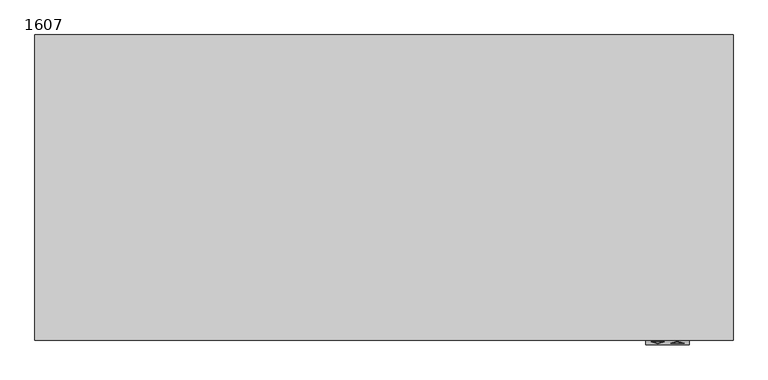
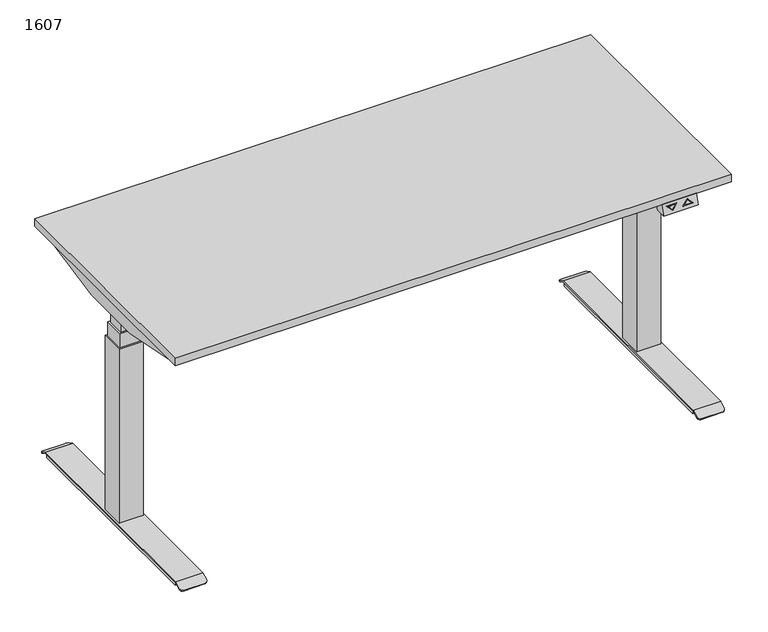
"""IFC4 building model written with IfcOpenShell, lengths in millimetres: furniture geometry, PINTA EQC : 1607."""

import ifcopenshell
import ifcopenshell.guid

model = None  # the IFC model being written
_history = None  # IfcOwnerHistory: only IFC2X3 demands one
_inside = {}  # id of a spatial element -> (the spatial element, [elements in it])
_under = {}  # id of a project, library or spatial element -> (it, [spatial elements below it])
_declared = {}  # id of a project -> (the project, [libraries it declares])
_typed = {}  # id of a type object -> (the type object, [elements of that type])
_made_of = {}  # id of a material, layer set ... -> (it, [elements and type objects made of it])


def new_model(schema):
    """Start an empty IFC model of exactly this schema.

    Asked for "IFC4X3", IfcOpenShell would pick the latest addendum, in which some entities
    have other attributes; the version numbers below select the first issue.
    IFC2X3 requires an IfcOwnerHistory on every rooted entity: one is made here for all.
    """
    global model, _history
    if schema == "IFC4X3":
        model = ifcopenshell.file(schema_version=(4, 3, 0, 0))
    else:
        model = ifcopenshell.file(schema=schema)
    _inside.clear()
    _under.clear()
    _declared.clear()
    _typed.clear()
    _made_of.clear()
    _history = None
    if model.schema == "IFC2X3":
        org = make("IfcOrganization", Name="unknown")
        user = make(
            "IfcPersonAndOrganization",
            ThePerson=make("IfcPerson", FamilyName="unknown"),
            TheOrganization=org,
        )
        app = make(
            "IfcApplication",
            ApplicationDeveloper=org,
            Version="unknown",
            ApplicationFullName="unknown",
            ApplicationIdentifier="unknown",
        )
        _history = make(
            "IfcOwnerHistory",
            OwningUser=user,
            OwningApplication=app,
            ChangeAction="ADDED",
            CreationDate=0,
        )
    return model


def make(cls, **values):
    """One entity of the class cls with the attributes given. An attribute that is None is left unset."""
    return model.create_entity(
        cls, **{name: value for name, value in values.items() if value is not None}
    )


def rooted(cls, **values):
    """An entity with a GlobalId (a new one), such as an element, a storey or a relation."""
    return make(cls, GlobalId=ifcopenshell.guid.new(), OwnerHistory=_history, **values)


def si_unit(unit_type, name, prefix=None):
    """IfcSIUnit, for example si_unit("LENGTHUNIT", "METRE", prefix="MILLI")."""
    return make("IfcSIUnit", UnitType=unit_type, Prefix=prefix, Name=name)


def assignment(units):
    """IfcUnitAssignment: the units of a project."""
    return None if units is None else make("IfcUnitAssignment", Units=units)


def point(xyz):
    """IfcCartesianPoint."""
    return None if xyz is None else make("IfcCartesianPoint", Coordinates=xyz)


def direction(xyz):
    """IfcDirection."""
    return None if xyz is None else make("IfcDirection", DirectionRatios=xyz)


def frame(location, z_axis=None, x_axis=None):
    """IfcAxis2Placement3D, a coordinate frame: its origin and axes. An axis left out is left unset."""
    return make(
        "IfcAxis2Placement3D",
        Location=point(location),
        Axis=direction(z_axis),
        RefDirection=direction(x_axis),
    )


def frame_2d(location, x_axis=None):
    """IfcAxis2Placement2D, a coordinate frame in the plane: its origin and x axis."""
    return make(
        "IfcAxis2Placement2D", Location=point(location), RefDirection=direction(x_axis)
    )


def origin():
    """The frame at (0, 0, 0) with its axes left unset."""
    return frame((0.0, 0.0, 0.0))


def origin_with_axes():
    """The frame at (0, 0, 0) with the z axis (0, 0, 1) and the x axis (1, 0, 0) written out."""
    return frame((0.0, 0.0, 0.0), z_axis=(0.0, 0.0, 1.0), x_axis=(1.0, 0.0, 0.0))


def place(relative_to, where):
    """IfcLocalPlacement: puts the frame where relative to a parent placement (None: the world)."""
    return make(
        "IfcLocalPlacement", PlacementRelTo=relative_to, RelativePlacement=where
    )


def context(
    kind, dimensions, precision=None, world=None, true_north=None, identifier=None
):
    """IfcGeometricRepresentationContext, for example the 3D "Model" context."""
    return make(
        "IfcGeometricRepresentationContext",
        ContextIdentifier=identifier,
        ContextType=kind,
        CoordinateSpaceDimension=dimensions,
        Precision=precision,
        WorldCoordinateSystem=world,
        TrueNorth=true_north,
    )


def project(units=None, contexts=None):
    """IfcProject with its units and contexts."""
    return rooted(
        "IfcProject",
        Name="project",
        RepresentationContexts=contexts,
        UnitsInContext=assignment(units),
    )


def spatial(cls, under=None, at=None, **own):
    """A site, building, storey or space (cls), placed at a placement, below another one or the project."""
    s = rooted(cls, ObjectPlacement=at, **own)
    if under is not None:
        _under.setdefault(under.id(), (under, []))[1].append(s)
    return s


def polyline(points):
    """IfcPolyline through the points."""
    return make("IfcPolyline", Points=[point(p) for p in points])


def circle_curve(where, radius):
    """IfcCircle in the frame where."""
    return make("IfcCircle", Position=where, Radius=radius)


def trimmed(basis, trim1, trim2, sense, master):
    """IfcTrimmedCurve: the piece of a basis curve between two trims."""
    return make(
        "IfcTrimmedCurve",
        BasisCurve=basis,
        Trim1=trim1,
        Trim2=trim2,
        SenseAgreement=sense,
        MasterRepresentation=master,
    )


def segment(curve, same_sense, transition):
    """IfcCompositeCurveSegment."""
    return make(
        "IfcCompositeCurveSegment",
        Transition=transition,
        SameSense=same_sense,
        ParentCurve=curve,
    )


def composite_curve(segments, self_intersect=None):
    """IfcCompositeCurve: segments joined end to end."""
    return make("IfcCompositeCurve", Segments=segments, SelfIntersect=self_intersect)


def outline(outer, holes=None, kind="AREA"):
    """IfcArbitraryClosedProfileDef: a profile drawn as a closed curve; with holes, ...WithVoids."""
    if holes is None:
        return make("IfcArbitraryClosedProfileDef", ProfileType=kind, OuterCurve=outer)
    return make(
        "IfcArbitraryProfileDefWithVoids",
        ProfileType=kind,
        OuterCurve=outer,
        InnerCurves=holes,
    )


def extrude(swept, where, along, depth):
    """IfcExtrudedAreaSolid: the profile swept, set in the frame where, extruded along a direction by depth."""
    return make(
        "IfcExtrudedAreaSolid",
        SweptArea=swept,
        Position=where,
        ExtrudedDirection=direction(along),
        Depth=depth,
    )


def faces_of(points, faces, orient=None, outer=None):
    """IfcFace entities. A face is a list of loops; a loop is a list of indices into points, from 0.

    orient and outer hold one flag for each loop. By default every Orientation is true, the
    first loop of a face is its IfcFaceOuterBound and the others are IfcFaceBound.
    """
    made = []
    for i, loops in enumerate(faces):
        bounds = []
        for j, loop in enumerate(loops):
            is_outer = j == 0 if outer is None else outer[i][j]
            bounds.append(
                make(
                    "IfcFaceOuterBound" if is_outer else "IfcFaceBound",
                    Bound=make("IfcPolyLoop", Polygon=[points[k] for k in loop]),
                    Orientation=True if orient is None else orient[i][j],
                )
            )
        made.append(make("IfcFace", Bounds=bounds))
    return made


def faceted_brep(points, faces, orient=None, outer=None, voids=None):
    """IfcFacetedBrep: a solid bounded by flat faces; with voids (closed shells), ...WithVoids."""
    shared = [point(p) for p in points]
    hull = make("IfcClosedShell", CfsFaces=faces_of(shared, faces, orient, outer))
    if voids is None:
        return make("IfcFacetedBrep", Outer=hull)
    return make(
        "IfcFacetedBrepWithVoids",
        Outer=hull,
        Voids=[
            make(cls, CfsFaces=faces_of(shared, fs, o, b)) for cls, fs, o, b in voids
        ],
    )


def shape(context_of_items, identifier, shape_type, items):
    """IfcShapeRepresentation: the items that make up one representation, for example the "Body"."""
    return make(
        "IfcShapeRepresentation",
        ContextOfItems=context_of_items,
        RepresentationIdentifier=identifier,
        RepresentationType=shape_type,
        Items=items,
    )


def source(mapping_origin, context_of_items, identifier, shape_type, items):
    """IfcRepresentationMap: a shape defined once, which mapped items show again and again."""
    return make(
        "IfcRepresentationMap",
        MappingOrigin=mapping_origin,
        MappedRepresentation=shape(context_of_items, identifier, shape_type, items),
    )


def transform(
    local_origin,
    x_axis=None,
    y_axis=None,
    z_axis=None,
    scale=None,
    scale2=None,
    scale3=None,
    uniform=True,
):
    """IfcCartesianTransformationOperator3D, or its non-uniform kind. x_axis, y_axis, z_axis: its Axis1, 2, 3."""
    if uniform:
        return make(
            "IfcCartesianTransformationOperator3D",
            Axis1=direction(x_axis),
            Axis2=direction(y_axis),
            LocalOrigin=point(local_origin),
            Scale=scale,
            Axis3=direction(z_axis),
        )
    return make(
        "IfcCartesianTransformationOperator3DnonUniform",
        Axis1=direction(x_axis),
        Axis2=direction(y_axis),
        LocalOrigin=point(local_origin),
        Scale=scale,
        Axis3=direction(z_axis),
        Scale2=scale2,
        Scale3=scale3,
    )


def mapped(mapping_source, mapping_target):
    """IfcMappedItem: shows the shape of a source again, moved by a transform."""
    return make(
        "IfcMappedItem", MappingSource=mapping_source, MappingTarget=mapping_target
    )


def made_of(thing, what):
    """Note that an element or type object is made of a material, layer set ...; save() writes the relation."""
    if what is not None:
        _made_of.setdefault(what.id(), (what, []))[1].append(thing)
    return thing


def element(
    cls,
    number,
    at=None,
    inside=None,
    cuts=None,
    type_object=None,
    material=None,
    context=None,
    identifier="Body",
    shape_type=None,
    held_by="IfcProductDefinitionShape",
    body=None,
    shapes=None,
    **own,
):
    """One element of the class cls, such as IfcWall. Its Tag is "e" and its number.

    at: its placement. inside: the storey or other place that contains it. cuts: it is an
    opening in that element (IfcRelVoidsElement). A single representation is given by context,
    identifier, shape_type and body (its items); several are given by shapes. held_by: the class
    of the entity that holds the representations. save() writes the other relations.
    """
    e = rooted(cls, Tag="e%d" % number, ObjectPlacement=at, **own)
    if body is not None:
        shapes = [shape(context, identifier, shape_type, body)]
    if shapes is not None:
        e.Representation = make(held_by, Representations=shapes)
    if inside is not None:
        _inside.setdefault(inside.id(), (inside, []))[1].append(e)
    if cuts is not None:
        rooted(
            "IfcRelVoidsElement", RelatingBuildingElement=cuts, RelatedOpeningElement=e
        )
    if type_object is not None:
        _typed.setdefault(type_object.id(), (type_object, []))[1].append(e)
    return made_of(e, material)


def aggregate(whole, parts):
    """IfcRelAggregates: a whole, such as a stair, and the parts it consists of."""
    return rooted("IfcRelAggregates", RelatingObject=whole, RelatedObjects=parts)


def save(model, path):
    """Write the relations noted so far, then the file.

    IfcRelAggregates (storeys below a building ...), IfcRelContainedInSpatialStructure (elements
    in a storey), IfcRelDefinesByType, IfcRelAssociatesMaterial and IfcRelDeclares: one each for
    every whole, place, type object, material and project.
    """
    for whole, parts in _under.values():
        aggregate(whole, parts)
    for where, things in _inside.values():
        rooted(
            "IfcRelContainedInSpatialStructure",
            RelatedElements=things,
            RelatingStructure=where,
        )
    for kind, things in _typed.values():
        rooted("IfcRelDefinesByType", RelatedObjects=things, RelatingType=kind)
    for what, things in _made_of.values():
        rooted("IfcRelAssociatesMaterial", RelatedObjects=things, RelatingMaterial=what)
    for by, libraries in _declared.values():
        rooted("IfcRelDeclares", RelatingContext=by, RelatedDefinitions=libraries)
    model.write(path)


def plane_surface(at):
    """IfcPlane: the flat surface through the origin of the frame at, square to its z axis."""
    return make("IfcPlane", Position=at)


def cylinder_surface(at, radius):
    """IfcCylindricalSurface: all points at the distance radius from the z axis of the frame at."""
    return make("IfcCylindricalSurface", Position=at, Radius=radius)


def advanced_brep(points, edges, surfaces, faces):
    """IfcAdvancedBrep: a solid bounded by faces that lie on surfaces and meet in shared edges.

    An edge is (start, end): straight between two places in points (the first is 0);
    or (start, end, curve); or (start, end, curve, False) where it runs against its curve.
    A face is (place in surfaces, loops), or (place, loops, False) where it looks against
    its surface's normal. A loop lists edges by number (the first is 1), with a minus sign
    where the edge is run from its end to its start. The first loop is the outer one.
    """
    corners = [point(p) for p in points]
    vertices = [make("IfcVertexPoint", VertexGeometry=c) for c in corners]
    made = []
    for start, end, *more in edges:
        made.append(
            make(
                "IfcEdgeCurve",
                EdgeStart=vertices[start],
                EdgeEnd=vertices[end],
                EdgeGeometry=more[0] if more else make("IfcPolyline", Points=[corners[start], corners[end]]),
                SameSense=more[1] if len(more) > 1 else True,
            )
        )
    hull = []
    for where, loops, *sense in faces:
        bounds = []
        for j, loop in enumerate(loops):
            ring = [make("IfcOrientedEdge", EdgeElement=made[abs(k) - 1], Orientation=k > 0) for k in loop]
            bounds.append(
                make(
                    "IfcFaceOuterBound" if j == 0 else "IfcFaceBound",
                    Bound=make("IfcEdgeLoop", EdgeList=ring),
                    Orientation=True,
                )
            )
        hull.append(make("IfcAdvancedFace", Bounds=bounds, FaceSurface=surfaces[where], SameSense=sense[0] if sense else True))
    return make("IfcAdvancedBrep", Outer=make("IfcClosedShell", CfsFaces=hull))


def furniture_1607_15c2b72c(model_context):
    return source(origin(), model_context, "Body", "SolidModel", [
        faceted_brep([(600.0, -710.0, 668.0), (600.0, -680.0, 668.0), (700.0, -680.0, 668.0), (700.0, -710.0, 668.0), (600.0, -700.0, 698.0), (700.0, -700.0, 698.0), (700.0, -670.0, 698.0), (600.0, -670.0, 698.0), (612.5, -702.6491106, 690.0526681), (642.5, -702.6491106, 690.0526681), (627.5, -707.3925271, 675.8224186), (687.5, -706.9174824, 677.2475529), (657.5, -706.9174824, 677.2475529), (672.5, -702.1740659, 691.4778023), (627.5, -706.4980999, 678.5057002), (637.6715729, -703.2815662, 688.1553015), (617.3284271, -703.2815662, 688.1553015), (682.6715729, -706.2850268, 679.1449195), (672.5, -703.0684931, 688.7945208), (662.3284271, -706.2850268, 679.1449195), (642.5, -701.7004273, 689.7364403), (612.5, -701.7004273, 689.7364403), (627.5, -706.4438438, 675.5061908), (637.6715729, -702.3328829, 687.8390737), (627.5, -705.5494166, 678.1894724), (617.3284271, -702.3328829, 687.8390737), (657.5, -705.9687991, 676.9313251), (687.5, -705.9687991, 676.9313251), (672.5, -701.2253826, 691.1615746), (672.5, -702.1198098, 688.478293), (682.6715729, -705.3363436, 678.8286917), (662.3284271, -705.3363436, 678.8286917)], [[[0, 1, 2, 3]], [[4, 5, 6, 7]], [[1, 0, 4, 7]], [[3, 2, 6, 5]], [[0, 3, 5, 4], [8, 9, 10], [11, 12, 13]], [[14, 15, 16]], [[17, 18, 19]], [[2, 1, 7, 6]], [[20, 21, 22], [23, 24, 25]], [[26, 27, 28], [29, 30, 31]], [[21, 20, 9, 8]], [[22, 21, 8, 10]], [[20, 22, 10, 9]], [[27, 26, 12, 11]], [[28, 27, 11, 13]], [[26, 28, 13, 12]], [[24, 23, 15, 14]], [[25, 24, 14, 16]], [[23, 25, 16, 15]], [[30, 29, 18, 17]], [[31, 30, 17, 19]], [[29, 31, 19, 18]]]),
        extrude(outline(polyline([(-780.0, -269.7732113), (780.0, -269.7733158), (780.0, -289.7733158), (-780.0, -289.7732113), (-780.0, -269.7732113)])), frame((0.0, 0.0, 658.0), z_axis=(0.0, 0.0, 1.0), x_axis=(1.0, 0.0, 0.0)), (0.0, 0.0, 1.0), 40.0),
        extrude(outline(polyline([(-780.0, -409.7732114), (780.0, -409.7733158), (780.0, -429.7733158), (-780.0, -429.7732114), (-780.0, -409.7732114)])), frame((0.0, 0.0, 658.0), z_axis=(0.0, 0.0, 1.0), x_axis=(1.0, 0.0, 0.0)), (0.0, 0.0, 1.0), 40.0),
        extrude(outline(polyline([(-800.0, -700.0), (-800.0, 0.0), (800.0, 0.0), (800.0, -700.0), (-800.0, -700.0)])), frame((0.0, 0.0, 698.0), z_axis=(0.0, 0.0, 1.0), x_axis=(1.0, 0.0, 0.0)), (0.0, 0.0, 1.0), 22.0),
        advanced_brep(
        [(706.9772339, -670.0, 6.0), (706.9772339, -670.0, 16.0), (706.9772339, -30.0, 16.0), (706.9772339, -30.0, 6.0), (783.0227661, -30.0, 16.0), (783.0227661, -30.0, 6.0), (783.0227661, -670.0, 16.0), (783.0227661, -670.0, 6.0), (706.0, -25.0, 20.0), (706.0, -6.9800481, 9.908827), (706.0, -8.9344616, 6.4188029), (706.0, -26.0437422, 16.0), (706.0, -673.9562578, 16.0), (706.0, -691.0655384, 6.4188029), (706.0, -693.0199519, 9.908827), (706.0, -675.0, 20.0), (784.0, -26.0437422, 16.0), (784.0, -8.9344616, 6.4188029), (784.0, -6.9800481, 9.908827), (784.0, -25.0, 20.0), (784.0, -675.0, 20.0), (784.0, -693.0199519, 9.908827), (784.0, -691.0655384, 6.4188029), (784.0, -673.9562578, 16.0), (714.0, -700.0, 6.0), (776.0, -700.0, 6.0), (714.0, -698.0455865, 2.5099759), (776.0, -698.0455865, 2.5099759), (714.0, -1.9544135, 2.5099759), (776.0, -1.9544135, 2.5099759), (714.0, 0.0, 6.0), (776.0, 0.0, 6.0)],
        [
            (0, 1),
            (1, 2),
            (2, 3),
            (3, 0),
            (2, 4),
            (4, 5),
            (5, 3),
            (4, 6),
            (6, 7),
            (7, 5),
            (6, 1),
            (0, 7),
            (8, 9),
            (9, 10),
            (10, 11),
            (11, 12),
            (12, 13),
            (13, 14),
            (14, 15),
            (15, 8),
            (16, 17),
            (17, 18),
            (18, 19),
            (19, 20),
            (20, 21),
            (21, 22),
            (22, 23),
            (23, 16),
            (15, 20),
            (19, 8),
            (11, 16),
            (23, 12),
            (14, 24, circle_curve(frame((714.0, -693.0199519, 9.908827), z_axis=(0.0, -0.4886033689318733, 0.8725060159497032), x_axis=(0.0, 0.8725060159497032, 0.4886033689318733)), 8.0)),
            (24, 25),
            (25, 21, circle_curve(frame((776.0, -693.0199519, 9.908827), z_axis=(0.0, -0.4886033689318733, 0.8725060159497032), x_axis=(0.0, 0.8725060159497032, 0.4886033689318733)), 8.0)),
            (24, 26),
            (26, 27),
            (27, 25),
            (22, 27, circle_curve(frame((776.0, -691.0655384, 6.4188029), z_axis=(0.0, 0.4886033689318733, -0.8725060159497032), x_axis=(0.0, 0.8725060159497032, 0.4886033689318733)), 8.0)),
            (26, 13, circle_curve(frame((714.0, -691.0655384, 6.4188029), z_axis=(0.0, 0.4886033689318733, -0.8725060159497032), x_axis=(0.0, 0.8725060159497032, 0.4886033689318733)), 8.0)),
            (10, 28, circle_curve(frame((714.0, -8.9344616, 6.4188029), z_axis=(0.0, -0.4886033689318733, -0.8725060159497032), x_axis=(0.0, -0.8725060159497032, 0.4886033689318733)), 8.0)),
            (28, 29),
            (29, 17, circle_curve(frame((776.0, -8.9344616, 6.4188029), z_axis=(0.0, -0.4886033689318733, -0.8725060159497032), x_axis=(0.0, -0.8725060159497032, 0.4886033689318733)), 8.0)),
            (28, 30),
            (30, 31),
            (31, 29),
            (18, 31, circle_curve(frame((776.0, -6.9800481, 9.908827), z_axis=(0.0, 0.4886033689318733, 0.8725060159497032), x_axis=(0.0, -0.8725060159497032, 0.4886033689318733)), 8.0)),
            (30, 9, circle_curve(frame((714.0, -6.9800481, 9.908827), z_axis=(0.0, 0.4886033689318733, 0.8725060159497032), x_axis=(0.0, -0.8725060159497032, 0.4886033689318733)), 8.0)),
        ],
        [
            plane_surface(frame((706.9772339, -670.0, 16.0), z_axis=(-1.0, 0.0, 0.0), x_axis=(0.0, 0.0, -1.0))),
            plane_surface(frame((706.9772339, -30.0, 16.0), z_axis=(0.0, 1.0, 0.0), x_axis=(0.0, 0.0, -1.0))),
            plane_surface(frame((783.0227661, -30.0, 16.0), z_axis=(1.0, 0.0, 0.0), x_axis=(0.0, 0.0, -1.0))),
            plane_surface(frame((783.0227661, -670.0, 16.0), z_axis=(0.0, -1.0, 0.0), x_axis=(0.0, 0.0, -1.0))),
            plane_surface(frame((706.9772339, -673.4188232, 6.0), z_axis=(0.0, 0.0, -1.0), x_axis=(0.0, -1.0, 0.0))),
            plane_surface(frame((706.0, -350.0, 20.0), z_axis=(-1.0, 0.0, 0.0), x_axis=(0.0, -1.0, 0.0))),
            plane_surface(frame((784.0, -350.0, 20.0), z_axis=(1.0, 0.0, 0.0), x_axis=(0.0, 1.0, 0.0))),
            plane_surface(frame((706.0, -25.0, 20.0), z_axis=(0.0, 0.0, 1.0), x_axis=(1.0, 0.0, 0.0))),
            plane_surface(frame((706.0, -673.9562578, 16.0), z_axis=(0.0, 0.0, -1.0), x_axis=(1.0, 0.0, 0.0))),
            plane_surface(frame((706.0, -675.0, 20.0), z_axis=(0.0, -0.4886033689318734, 0.8725060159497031), x_axis=(1.0, 0.0, 0.0))),
            plane_surface(frame((706.0, -700.0, 6.0), z_axis=(0.0, -0.872506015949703, -0.4886033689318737), x_axis=(1.0, 0.0, 0.0))),
            plane_surface(frame((706.0, -698.0455865, 2.5099759), z_axis=(0.0, 0.4886033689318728, -0.8725060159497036), x_axis=(1.0, 0.0, 0.0))),
            plane_surface(frame((706.0, -26.0437422, 16.0), z_axis=(0.0, -0.4886033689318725, -0.8725060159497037), x_axis=(1.0, 0.0, 0.0))),
            plane_surface(frame((706.0, -1.9544135, 2.5099759), z_axis=(0.0, 0.8725060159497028, -0.48860336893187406), x_axis=(1.0, 0.0, 0.0))),
            plane_surface(frame((706.0, 0.0, 6.0), z_axis=(0.0, 0.48860336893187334, 0.8725060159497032), x_axis=(1.0, 0.0, 0.0))),
            cylinder_surface(frame((714.0, -693.0199519, 9.908827), z_axis=(0.0, -0.4886033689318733, 0.8725060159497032), x_axis=(0.0, 0.8725060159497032, 0.4886033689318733)), 8.0),
            cylinder_surface(frame((776.0, -693.0199519, 9.908827), z_axis=(0.0, -0.4886033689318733, 0.8725060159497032), x_axis=(0.0, 0.8725060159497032, 0.4886033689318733)), 8.0),
            cylinder_surface(frame((714.0, -6.9800481, 9.908827), z_axis=(0.0, 0.4886033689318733, 0.8725060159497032), x_axis=(0.0, -0.8725060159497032, 0.4886033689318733)), 8.0),
            cylinder_surface(frame((776.0, -6.9800481, 9.908827), z_axis=(0.0, 0.4886033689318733, 0.8725060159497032), x_axis=(0.0, -0.8725060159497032, 0.4886033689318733)), 8.0),
        ],
        [
            (0, [[1, 2, 3, 4]]),
            (1, [[-3, 5, 6, 7]]),
            (2, [[-6, 8, 9, 10]]),
            (3, [[-9, 11, -1, 12]]),
            (4, [[-4, -7, -10, -12]]),
            (5, [[13, 14, 15, 16, 17, 18, 19, 20]]),
            (6, [[21, 22, 23, 24, 25, 26, 27, 28]]),
            (7, [[29, -24, 30, -20]]),
            (8, [[31, -28, 32, -16], [-11, -8, -5, -2]]),
            (9, [[-19, 33, 34, 35, -25, -29]]),
            (10, [[36, 37, 38, -34]]),
            (11, [[-27, 39, -37, 40, -17, -32]]),
            (12, [[-15, 41, 42, 43, -21, -31]]),
            (13, [[44, 45, 46, -42]]),
            (14, [[-23, 47, -45, 48, -13, -30]]),
            (15, [[-40, -36, -33, -18]]),
            (16, [[-35, -38, -39, -26]]),
            (17, [[-48, -44, -41, -14]]),
            (18, [[-43, -46, -47, -22]]),
        ],
    ),
        faceted_brep([(579.4551307, -410.0, 698.0), (762.9996948, -410.0, 698.0), (762.9996948, -650.0, 698.0), (779.4551307, -650.0, 698.0), (783.0, -650.0, 698.0), (783.0, -50.0, 698.0), (779.4551307, -50.0, 698.0), (762.9996948, -50.0, 698.0), (762.9996948, -290.0, 698.0), (579.4551307, -290.0, 698.0), (579.4551307, -410.0, 635.2327881), (579.4551307, -290.0, 635.2327881), (779.4551307, -290.0, 635.2327881), (779.4551307, -253.8252348, 635.2327881), (783.0, -253.8252348, 635.2327881), (783.0, -446.1747652, 635.2327881), (779.4551307, -446.1747652, 635.2327881), (779.4551307, -410.0, 635.2327881), (762.9996948, -290.0, 694.9093018), (779.4551307, -290.0, 694.9093018), (779.4551307, -410.0, 694.9093018), (762.9996948, -410.0, 694.9093018), (779.4551307, -650.0, 694.9093018), (762.9996948, -650.0, 694.9093018), (779.4551307, -50.0, 694.9093018), (762.9996948, -50.0, 694.9093018), (779.4551307, -51.1249222, 694.9093018), (779.4551307, -648.8750778, 694.9093018), (779.4551307, -58.5505036, 674.5076845), (779.4551307, -641.4494964, 674.5076845), (783.0, -58.5505036, 674.5076845), (783.0, -641.4494964, 674.5076845)], [[[0, 1, 2, 3, 4, 5, 6, 7, 8, 9]], [[10, 11, 12, 13, 14, 15, 16, 17]], [[9, 11, 10, 0]], [[11, 9, 8, 18, 19, 12]], [[17, 20, 21, 1, 0, 10]], [[22, 3, 2, 23]], [[24, 25, 7, 6]], [[24, 26, 19, 18, 25]], [[23, 21, 20, 27, 22]], [[2, 1, 21, 23]], [[25, 18, 8, 7]], [[13, 12, 19, 26, 28]], [[29, 27, 20, 17, 16]], [[15, 14, 30, 5, 4, 31]], [[16, 15, 31, 29]], [[22, 27, 3]], [[6, 26, 24]], [[4, 3, 27, 29, 31]], [[28, 30, 14, 13]], [[30, 28, 26, 6, 5]]]),
        extrude(outline(composite_curve([segment(trimmed(circle_curve(frame_2d((745.0, -655.0)), 25.0), [point((770.0, -655.0))], [point((720.0, -655.0))], False, "CARTESIAN"), True, "CONTINUOUS"), segment(trimmed(circle_curve(frame_2d((745.0, -655.0)), 25.0), [point((720.0, -655.0))], [point((770.0, -655.0))], False, "CARTESIAN"), True, "CONTINUOUS")], self_intersect=False)), origin_with_axes(), (0.0, 0.0, 1.0), 6.0),
        extrude(outline(composite_curve([segment(trimmed(circle_curve(frame_2d((745.0, -45.0)), 25.0), [point((770.0, -45.0))], [point((720.0, -45.0))], False, "CARTESIAN"), True, "CONTINUOUS"), segment(trimmed(circle_curve(frame_2d((745.0, -45.0)), 25.0), [point((720.0, -45.0))], [point((770.0, -45.0))], False, "CARTESIAN"), True, "CONTINUOUS")], self_intersect=False)), origin_with_axes(), (0.0, 0.0, 1.0), 6.0),
        faceted_brep([(710.0, -315.0, 550.0), (710.0, -384.9621325, 550.0), (780.0, -384.9621325, 550.0), (780.0, -315.0, 550.0), (775.0, -320.0, 550.0), (775.0, -379.9621325, 550.0), (715.0, -379.9621325, 550.0), (715.0, -320.0, 550.0), (710.0, -315.0, 20.0), (780.0, -315.0, 20.0), (780.0, -384.9621325, 20.0), (710.0, -384.9621325, 20.0), (715.0, -320.0, 592.616394), (715.0, -379.9621325, 592.616394), (775.0, -379.9621325, 592.616394), (775.0, -320.0, 592.616394), (770.0, -325.0, 592.616394), (770.0, -374.9621325, 592.616394), (720.0, -374.9621325, 592.616394), (720.0, -325.0, 592.616394), (720.0, -325.0, 635.2327881), (720.0, -374.9621325, 635.2327881), (770.0, -374.9621325, 635.2327881), (770.0, -325.0, 635.2327881)], [[[0, 1, 2, 3], [4, 5, 6, 7]], [[8, 9, 10, 11]], [[3, 9, 8, 0]], [[2, 10, 9, 3]], [[1, 11, 10, 2]], [[0, 8, 11, 1]], [[12, 13, 14, 15], [16, 17, 18, 19]], [[15, 4, 7, 12]], [[14, 5, 4, 15]], [[13, 6, 5, 14]], [[12, 7, 6, 13]], [[20, 21, 22, 23]], [[23, 16, 19, 20]], [[22, 17, 16, 23]], [[21, 18, 17, 22]], [[20, 19, 18, 21]]]),
        advanced_brep(
        [(-706.9772339, -670.0, 6.0), (-706.9772339, -30.0, 6.0), (-706.9772339, -30.0, 16.0), (-706.9772339, -670.0, 16.0), (-783.0227661, -30.0, 6.0), (-783.0227661, -30.0, 16.0), (-783.0227661, -670.0, 6.0), (-783.0227661, -670.0, 16.0), (-706.0, -25.0, 20.0), (-706.0, -675.0, 20.0), (-706.0, -693.0199519, 9.908827), (-706.0, -691.0655384, 6.4188029), (-706.0, -673.9562578, 16.0), (-706.0, -26.0437422, 16.0), (-706.0, -8.9344616, 6.4188029), (-706.0, -6.9800481, 9.908827), (-784.0, -26.0437422, 16.0), (-784.0, -673.9562578, 16.0), (-784.0, -691.0655384, 6.4188029), (-784.0, -693.0199519, 9.908827), (-784.0, -675.0, 20.0), (-784.0, -25.0, 20.0), (-784.0, -6.9800481, 9.908827), (-784.0, -8.9344616, 6.4188029), (-776.0, -700.0, 6.0), (-714.0, -700.0, 6.0), (-776.0, -698.0455865, 2.5099759), (-714.0, -698.0455865, 2.5099759), (-776.0, -1.9544135, 2.5099759), (-714.0, -1.9544135, 2.5099759), (-776.0, 0.0, 6.0), (-714.0, 0.0, 6.0)],
        [
            (0, 1),
            (1, 2),
            (2, 3),
            (3, 0),
            (1, 4),
            (4, 5),
            (5, 2),
            (4, 6),
            (6, 7),
            (7, 5),
            (6, 0),
            (3, 7),
            (8, 9),
            (9, 10),
            (10, 11),
            (11, 12),
            (12, 13),
            (13, 14),
            (14, 15),
            (15, 8),
            (16, 17),
            (17, 18),
            (18, 19),
            (19, 20),
            (20, 21),
            (21, 22),
            (22, 23),
            (23, 16),
            (8, 21),
            (20, 9),
            (12, 17),
            (16, 13),
            (19, 24, circle_curve(frame((-776.0, -693.0199519, 9.908827), z_axis=(0.0, -0.4886033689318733, 0.8725060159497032), x_axis=(0.0, 0.8725060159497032, 0.4886033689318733)), 8.0)),
            (24, 25),
            (25, 10, circle_curve(frame((-714.0, -693.0199519, 9.908827), z_axis=(0.0, -0.4886033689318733, 0.8725060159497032), x_axis=(0.0, 0.8725060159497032, 0.4886033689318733)), 8.0)),
            (24, 26),
            (26, 27),
            (27, 25),
            (11, 27, circle_curve(frame((-714.0, -691.0655384, 6.4188029), z_axis=(0.0, 0.4886033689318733, -0.8725060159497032), x_axis=(0.0, 0.8725060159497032, 0.4886033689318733)), 8.0)),
            (26, 18, circle_curve(frame((-776.0, -691.0655384, 6.4188029), z_axis=(0.0, 0.4886033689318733, -0.8725060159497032), x_axis=(0.0, 0.8725060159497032, 0.4886033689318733)), 8.0)),
            (23, 28, circle_curve(frame((-776.0, -8.9344616, 6.4188029), z_axis=(0.0, -0.4886033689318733, -0.8725060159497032), x_axis=(0.0, -0.8725060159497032, 0.4886033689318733)), 8.0)),
            (28, 29),
            (29, 14, circle_curve(frame((-714.0, -8.9344616, 6.4188029), z_axis=(0.0, -0.4886033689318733, -0.8725060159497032), x_axis=(0.0, -0.8725060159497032, 0.4886033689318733)), 8.0)),
            (28, 30),
            (30, 31),
            (31, 29),
            (15, 31, circle_curve(frame((-714.0, -6.9800481, 9.908827), z_axis=(0.0, 0.4886033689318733, 0.8725060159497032), x_axis=(0.0, -0.8725060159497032, 0.4886033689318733)), 8.0)),
            (30, 22, circle_curve(frame((-776.0, -6.9800481, 9.908827), z_axis=(0.0, 0.4886033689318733, 0.8725060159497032), x_axis=(0.0, -0.8725060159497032, 0.4886033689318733)), 8.0)),
        ],
        [
            plane_surface(frame((-706.9772339, -670.0, 16.0), z_axis=(1.0, 0.0, 0.0), x_axis=(0.0, 0.0, -1.0))),
            plane_surface(frame((-706.9772339, -30.0, 16.0), z_axis=(0.0, 1.0, 0.0), x_axis=(0.0, 0.0, -1.0))),
            plane_surface(frame((-783.0227661, -30.0, 16.0), z_axis=(-1.0, 0.0, 0.0), x_axis=(0.0, 0.0, -1.0))),
            plane_surface(frame((-783.0227661, -670.0, 16.0), z_axis=(0.0, -1.0, 0.0), x_axis=(0.0, 0.0, -1.0))),
            plane_surface(frame((-706.9772339, -673.4188232, 6.0), z_axis=(0.0, 0.0, -1.0), x_axis=(0.0, -1.0, 0.0))),
            plane_surface(frame((-706.0, -350.0, 20.0), z_axis=(1.0, 0.0, 0.0), x_axis=(0.0, -1.0, 0.0))),
            plane_surface(frame((-784.0, -350.0, 20.0), z_axis=(-1.0, 0.0, 0.0), x_axis=(0.0, 1.0, 0.0))),
            plane_surface(frame((-706.0, -25.0, 20.0), z_axis=(0.0, 0.0, 1.0), x_axis=(-1.0, 0.0, 0.0))),
            plane_surface(frame((-706.0, -673.9562578, 16.0), z_axis=(0.0, 0.0, -1.0), x_axis=(-1.0, 0.0, 0.0))),
            plane_surface(frame((-706.0, -675.0, 20.0), z_axis=(0.0, -0.4886033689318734, 0.8725060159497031), x_axis=(-1.0, 0.0, 0.0))),
            plane_surface(frame((-706.0, -700.0, 6.0), z_axis=(0.0, -0.872506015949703, -0.4886033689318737), x_axis=(-1.0, 0.0, 0.0))),
            plane_surface(frame((-706.0, -698.0455865, 2.5099759), z_axis=(0.0, 0.4886033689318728, -0.8725060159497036), x_axis=(-1.0, 0.0, 0.0))),
            plane_surface(frame((-706.0, -26.0437422, 16.0), z_axis=(0.0, -0.4886033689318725, -0.8725060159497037), x_axis=(-1.0, 0.0, 0.0))),
            plane_surface(frame((-706.0, -1.9544135, 2.5099759), z_axis=(0.0, 0.8725060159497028, -0.48860336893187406), x_axis=(-1.0, 0.0, 0.0))),
            plane_surface(frame((-706.0, 0.0, 6.0), z_axis=(0.0, 0.48860336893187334, 0.8725060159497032), x_axis=(-1.0, 0.0, 0.0))),
            cylinder_surface(frame((-714.0, -693.0199519, 9.908827), z_axis=(0.0, -0.4886033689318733, 0.8725060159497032), x_axis=(0.0, 0.8725060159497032, 0.4886033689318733)), 8.0),
            cylinder_surface(frame((-776.0, -693.0199519, 9.908827), z_axis=(0.0, -0.4886033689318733, 0.8725060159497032), x_axis=(0.0, 0.8725060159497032, 0.4886033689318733)), 8.0),
            cylinder_surface(frame((-714.0, -6.9800481, 9.908827), z_axis=(0.0, 0.4886033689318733, 0.8725060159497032), x_axis=(0.0, -0.8725060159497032, 0.4886033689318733)), 8.0),
            cylinder_surface(frame((-776.0, -6.9800481, 9.908827), z_axis=(0.0, 0.4886033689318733, 0.8725060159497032), x_axis=(0.0, -0.8725060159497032, 0.4886033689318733)), 8.0),
        ],
        [
            (0, [[1, 2, 3, 4]]),
            (1, [[5, 6, 7, -2]]),
            (2, [[8, 9, 10, -6]]),
            (3, [[11, -4, 12, -9]]),
            (4, [[-11, -8, -5, -1]]),
            (5, [[13, 14, 15, 16, 17, 18, 19, 20]]),
            (6, [[21, 22, 23, 24, 25, 26, 27, 28]]),
            (7, [[-13, 29, -25, 30]]),
            (8, [[-17, 31, -21, 32], [-3, -7, -10, -12]]),
            (9, [[-30, -24, 33, 34, 35, -14]]),
            (10, [[-34, 36, 37, 38]]),
            (11, [[-31, -16, 39, -37, 40, -22]]),
            (12, [[-32, -28, 41, 42, 43, -18]]),
            (13, [[-42, 44, 45, 46]]),
            (14, [[-29, -20, 47, -45, 48, -26]]),
            (15, [[-15, -35, -38, -39]]),
            (16, [[-23, -40, -36, -33]]),
            (17, [[-19, -43, -46, -47]]),
            (18, [[-27, -48, -44, -41]]),
        ],
    ),
        faceted_brep([(-579.4551307, -410.0, 698.0), (-579.4551307, -290.0, 698.0), (-762.9996948, -290.0, 698.0), (-762.9996948, -50.0, 698.0), (-779.4551307, -50.0, 698.0), (-783.0, -50.0, 698.0), (-783.0, -650.0, 698.0), (-779.4551307, -650.0, 698.0), (-762.9996948, -650.0, 698.0), (-762.9996948, -410.0, 698.0), (-579.4551307, -410.0, 635.2327881), (-779.4551307, -410.0, 635.2327881), (-779.4551307, -446.1747652, 635.2327881), (-783.0, -446.1747652, 635.2327881), (-783.0, -253.8252348, 635.2327881), (-779.4551307, -253.8252348, 635.2327881), (-779.4551307, -290.0, 635.2327881), (-579.4551307, -290.0, 635.2327881), (-779.4551307, -290.0, 694.9093018), (-762.9996948, -290.0, 694.9093018), (-762.9996948, -410.0, 694.9093018), (-779.4551307, -410.0, 694.9093018), (-779.4551307, -650.0, 694.9093018), (-762.9996948, -650.0, 694.9093018), (-779.4551307, -50.0, 694.9093018), (-762.9996948, -50.0, 694.9093018), (-779.4551307, -648.8750778, 694.9093018), (-779.4551307, -51.1249222, 694.9093018), (-779.4551307, -641.4494964, 674.5076845), (-779.4551307, -58.5505036, 674.5076845), (-783.0, -641.4494964, 674.5076845), (-783.0, -58.5505036, 674.5076845)], [[[0, 1, 2, 3, 4, 5, 6, 7, 8, 9]], [[10, 11, 12, 13, 14, 15, 16, 17]], [[1, 0, 10, 17]], [[17, 16, 18, 19, 2, 1]], [[11, 10, 0, 9, 20, 21]], [[22, 23, 8, 7]], [[24, 4, 3, 25]], [[23, 22, 26, 21, 20]], [[24, 25, 19, 18, 27]], [[8, 23, 20, 9]], [[25, 3, 2, 19]], [[28, 12, 11, 21, 26]], [[15, 29, 27, 18, 16]], [[13, 30, 6, 5, 31, 14]], [[12, 28, 30, 13]], [[22, 7, 26]], [[4, 24, 27]], [[6, 30, 28, 26, 7]], [[29, 15, 14, 31]], [[31, 5, 4, 27, 29]]]),
        extrude(outline(composite_curve([segment(trimmed(circle_curve(frame_2d((-745.0, -655.0)), 25.0), [point((-770.0, -655.0))], [point((-720.0, -655.0))], False, "CARTESIAN"), True, "CONTINUOUS"), segment(trimmed(circle_curve(frame_2d((-745.0, -655.0)), 25.0), [point((-720.0, -655.0))], [point((-770.0, -655.0))], False, "CARTESIAN"), True, "CONTINUOUS")], self_intersect=False)), origin_with_axes(), (0.0, 0.0, 1.0), 6.0),
        extrude(outline(composite_curve([segment(trimmed(circle_curve(frame_2d((-745.0, -45.0)), 25.0), [point((-770.0, -45.0))], [point((-720.0, -45.0))], False, "CARTESIAN"), True, "CONTINUOUS"), segment(trimmed(circle_curve(frame_2d((-745.0, -45.0)), 25.0), [point((-720.0, -45.0))], [point((-770.0, -45.0))], False, "CARTESIAN"), True, "CONTINUOUS")], self_intersect=False)), origin_with_axes(), (0.0, 0.0, 1.0), 6.0),
        faceted_brep([(-710.0, -315.0, 550.0), (-780.0, -315.0, 550.0), (-780.0, -384.9621325, 550.0), (-710.0, -384.9621325, 550.0), (-775.0, -320.0, 550.0), (-715.0, -320.0, 550.0), (-715.0, -379.9621325, 550.0), (-775.0, -379.9621325, 550.0), (-710.0, -315.0, 20.0), (-710.0, -384.9621325, 20.0), (-780.0, -384.9621325, 20.0), (-780.0, -315.0, 20.0), (-715.0, -320.0, 592.616394), (-775.0, -320.0, 592.616394), (-775.0, -379.9621325, 592.616394), (-715.0, -379.9621325, 592.616394), (-770.0, -325.0, 592.616394), (-720.0, -325.0, 592.616394), (-720.0, -374.9621325, 592.616394), (-770.0, -374.9621325, 592.616394), (-720.0, -325.0, 635.2327881), (-770.0, -325.0, 635.2327881), (-770.0, -374.9621325, 635.2327881), (-720.0, -374.9621325, 635.2327881)], [[[0, 1, 2, 3], [4, 5, 6, 7]], [[8, 9, 10, 11]], [[1, 0, 8, 11]], [[2, 1, 11, 10]], [[3, 2, 10, 9]], [[0, 3, 9, 8]], [[12, 13, 14, 15], [16, 17, 18, 19]], [[13, 12, 5, 4]], [[14, 13, 4, 7]], [[15, 14, 7, 6]], [[12, 15, 6, 5]], [[20, 21, 22, 23]], [[21, 20, 17, 16]], [[22, 21, 16, 19]], [[23, 22, 19, 18]], [[20, 23, 18, 17]]]),
    ])


if __name__ == "__main__":
    model = new_model("IFC4")
    model_context = context("Model", 3, world=origin())
    ifc_project = project(units=[si_unit("LENGTHUNIT", "METRE", prefix="MILLI")], contexts=[model_context])
    site = spatial("IfcSite", under=ifc_project)
    building = spatial("IfcBuilding", under=site)
    placement = place(None, origin())
    furniture_1607_shape = furniture_1607_15c2b72c(model_context)
    element("IfcFurniture", 1, ObjectType="PINTA EQC : 1607", at=placement, inside=building, context=model_context, shape_type="MappedRepresentation", body=[
        mapped(furniture_1607_shape, transform((0.0, 0.0, 0.0), x_axis=(1.0, 0.0, 0.0), y_axis=(0.0, 1.0, 0.0), z_axis=(0.0, 0.0, 1.0))),
    ])
    save(model, "model.ifc")
